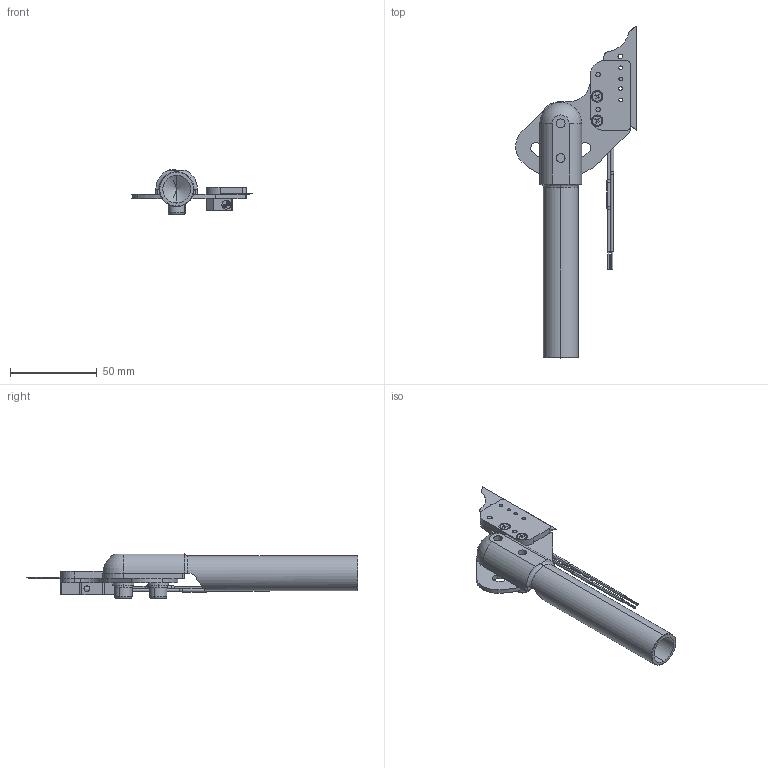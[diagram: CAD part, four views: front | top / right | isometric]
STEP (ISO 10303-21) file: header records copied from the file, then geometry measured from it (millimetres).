
FILE_DESCRIPTION (( 'STEP AP203' ), '1' );
FILE_NAME ('GT-BH2060.STEP', '2025-03-26T08:38:52', ( '' ), ( '' ), 'SwSTEP 2.0', 'SolidWorks 2018', '' );
FILE_SCHEMA (( 'CONFIG_CONTROL_DESIGN' ));
Length unit declared in the file: millimetre
Products named in the file (12): plain washers--product grade c gb_GB_FASTENER_WASHER_SMWC 6; GT-BH絮え假蚾啣1; GT-BH隔热板; GT-BHз賃絮え; GT-BH嘐隅裝; single coil lock washers light type gb_GB_FASTENER_WASHER_SSWL 6; GT-BH加热棒安装板; MCHK5-30-V220-W40; GT-BH絮え假蚾啣2; GT-BH2060; cross recessed ctsk head screws type b gb_GB_CROSS_SCREWS_TYPE136 M3X6-N; hexagon socket head cap screws gb_GB_FASTENER_SCREWS_HSHCS M6X16-C
Assembly tree (17 placements, depth 2):
  GT-BH2060
    GT-BH嘐隅裝
    GT-BHз賃絮え
    GT-BH絮え假蚾啣1
    GT-BH絮え假蚾啣2
    MCHK5-30-V220-W40
    GT-BH加热棒安装板
    GT-BH隔热板
    cross recessed ctsk head screws type b gb_GB_CROSS_SCREWS_TYPE136 M3X6-N  x4
    hexagon socket head cap screws gb_GB_FASTENER_SCREWS_HSHCS M6X16-C  x2
    plain washers--product grade c gb_GB_FASTENER_WASHER_SMWC 6  x2
    single coil lock washers light type gb_GB_FASTENER_WASHER_SSWL 6  x2
Bounding box: 69.39 x 191 x 25.54 mm (x, y, z)
Volume: 41859.8 mm3; surface area: 32435.9 mm2
Topology: 17 solids, 17 shells, 387 faces, 969 edges, 622 vertices
Faces by surface type: cylinder 172, plane 164, cone 44, torus 6, sphere 1
Entity records: 9721 total; most frequent: DIRECTION 1529, CARTESIAN_POINT 1504, ORIENTED_EDGE 1338, EDGE_CURVE 669, AXIS2_PLACEMENT_3D 588, VERTEX_POINT 433, LINE 353, VECTOR 353
